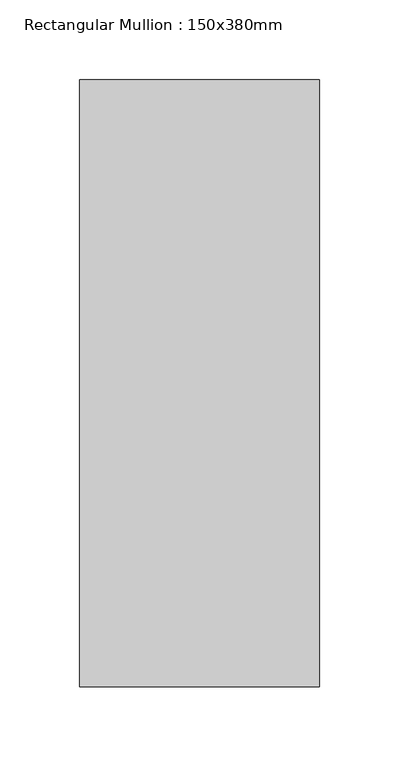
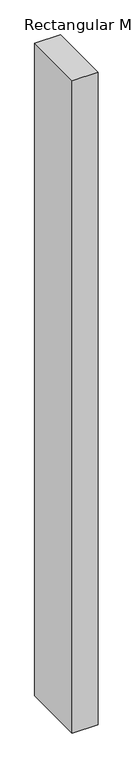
"""IFC4 building model written with IfcOpenShell, lengths in millimetres: member geometry, Rectangular Mullion : 150x380mm."""

import ifcopenshell
import ifcopenshell.guid

model = None  # the IFC model being written
_history = None  # IfcOwnerHistory: only IFC2X3 demands one
_inside = {}  # id of a spatial element -> (the spatial element, [elements in it])
_under = {}  # id of a project, library or spatial element -> (it, [spatial elements below it])
_declared = {}  # id of a project -> (the project, [libraries it declares])
_typed = {}  # id of a type object -> (the type object, [elements of that type])
_made_of = {}  # id of a material, layer set ... -> (it, [elements and type objects made of it])


def new_model(schema):
    """Start an empty IFC model of exactly this schema.

    Asked for "IFC4X3", IfcOpenShell would pick the latest addendum, in which some entities
    have other attributes; the version numbers below select the first issue.
    IFC2X3 requires an IfcOwnerHistory on every rooted entity: one is made here for all.
    """
    global model, _history
    if schema == "IFC4X3":
        model = ifcopenshell.file(schema_version=(4, 3, 0, 0))
    else:
        model = ifcopenshell.file(schema=schema)
    _inside.clear()
    _under.clear()
    _declared.clear()
    _typed.clear()
    _made_of.clear()
    _history = None
    if model.schema == "IFC2X3":
        org = make("IfcOrganization", Name="unknown")
        user = make(
            "IfcPersonAndOrganization",
            ThePerson=make("IfcPerson", FamilyName="unknown"),
            TheOrganization=org,
        )
        app = make(
            "IfcApplication",
            ApplicationDeveloper=org,
            Version="unknown",
            ApplicationFullName="unknown",
            ApplicationIdentifier="unknown",
        )
        _history = make(
            "IfcOwnerHistory",
            OwningUser=user,
            OwningApplication=app,
            ChangeAction="ADDED",
            CreationDate=0,
        )
    return model


def make(cls, **values):
    """One entity of the class cls with the attributes given. An attribute that is None is left unset."""
    return model.create_entity(
        cls, **{name: value for name, value in values.items() if value is not None}
    )


def rooted(cls, **values):
    """An entity with a GlobalId (a new one), such as an element, a storey or a relation."""
    return make(cls, GlobalId=ifcopenshell.guid.new(), OwnerHistory=_history, **values)


def si_unit(unit_type, name, prefix=None):
    """IfcSIUnit, for example si_unit("LENGTHUNIT", "METRE", prefix="MILLI")."""
    return make("IfcSIUnit", UnitType=unit_type, Prefix=prefix, Name=name)


def assignment(units):
    """IfcUnitAssignment: the units of a project."""
    return None if units is None else make("IfcUnitAssignment", Units=units)


def point(xyz):
    """IfcCartesianPoint."""
    return None if xyz is None else make("IfcCartesianPoint", Coordinates=xyz)


def direction(xyz):
    """IfcDirection."""
    return None if xyz is None else make("IfcDirection", DirectionRatios=xyz)


def frame(location, z_axis=None, x_axis=None):
    """IfcAxis2Placement3D, a coordinate frame: its origin and axes. An axis left out is left unset."""
    return make(
        "IfcAxis2Placement3D",
        Location=point(location),
        Axis=direction(z_axis),
        RefDirection=direction(x_axis),
    )


def origin():
    """The frame at (0, 0, 0) with its axes left unset."""
    return frame((0.0, 0.0, 0.0))


def place(relative_to, where):
    """IfcLocalPlacement: puts the frame where relative to a parent placement (None: the world)."""
    return make(
        "IfcLocalPlacement", PlacementRelTo=relative_to, RelativePlacement=where
    )


def context(
    kind, dimensions, precision=None, world=None, true_north=None, identifier=None
):
    """IfcGeometricRepresentationContext, for example the 3D "Model" context."""
    return make(
        "IfcGeometricRepresentationContext",
        ContextIdentifier=identifier,
        ContextType=kind,
        CoordinateSpaceDimension=dimensions,
        Precision=precision,
        WorldCoordinateSystem=world,
        TrueNorth=true_north,
    )


def project(units=None, contexts=None):
    """IfcProject with its units and contexts."""
    return rooted(
        "IfcProject",
        Name="project",
        RepresentationContexts=contexts,
        UnitsInContext=assignment(units),
    )


def spatial(cls, under=None, at=None, **own):
    """A site, building, storey or space (cls), placed at a placement, below another one or the project."""
    s = rooted(cls, ObjectPlacement=at, **own)
    if under is not None:
        _under.setdefault(under.id(), (under, []))[1].append(s)
    return s


def polyline(points):
    """IfcPolyline through the points."""
    return make("IfcPolyline", Points=[point(p) for p in points])


def outline(outer, holes=None, kind="AREA"):
    """IfcArbitraryClosedProfileDef: a profile drawn as a closed curve; with holes, ...WithVoids."""
    if holes is None:
        return make("IfcArbitraryClosedProfileDef", ProfileType=kind, OuterCurve=outer)
    return make(
        "IfcArbitraryProfileDefWithVoids",
        ProfileType=kind,
        OuterCurve=outer,
        InnerCurves=holes,
    )


def extrude(swept, where, along, depth):
    """IfcExtrudedAreaSolid: the profile swept, set in the frame where, extruded along a direction by depth."""
    return make(
        "IfcExtrudedAreaSolid",
        SweptArea=swept,
        Position=where,
        ExtrudedDirection=direction(along),
        Depth=depth,
    )


def shape(context_of_items, identifier, shape_type, items):
    """IfcShapeRepresentation: the items that make up one representation, for example the "Body"."""
    return make(
        "IfcShapeRepresentation",
        ContextOfItems=context_of_items,
        RepresentationIdentifier=identifier,
        RepresentationType=shape_type,
        Items=items,
    )


def source(mapping_origin, context_of_items, identifier, shape_type, items):
    """IfcRepresentationMap: a shape defined once, which mapped items show again and again."""
    return make(
        "IfcRepresentationMap",
        MappingOrigin=mapping_origin,
        MappedRepresentation=shape(context_of_items, identifier, shape_type, items),
    )


def transform(
    local_origin,
    x_axis=None,
    y_axis=None,
    z_axis=None,
    scale=None,
    scale2=None,
    scale3=None,
    uniform=True,
):
    """IfcCartesianTransformationOperator3D, or its non-uniform kind. x_axis, y_axis, z_axis: its Axis1, 2, 3."""
    if uniform:
        return make(
            "IfcCartesianTransformationOperator3D",
            Axis1=direction(x_axis),
            Axis2=direction(y_axis),
            LocalOrigin=point(local_origin),
            Scale=scale,
            Axis3=direction(z_axis),
        )
    return make(
        "IfcCartesianTransformationOperator3DnonUniform",
        Axis1=direction(x_axis),
        Axis2=direction(y_axis),
        LocalOrigin=point(local_origin),
        Scale=scale,
        Axis3=direction(z_axis),
        Scale2=scale2,
        Scale3=scale3,
    )


def mapped(mapping_source, mapping_target):
    """IfcMappedItem: shows the shape of a source again, moved by a transform."""
    return make(
        "IfcMappedItem", MappingSource=mapping_source, MappingTarget=mapping_target
    )


def made_of(thing, what):
    """Note that an element or type object is made of a material, layer set ...; save() writes the relation."""
    if what is not None:
        _made_of.setdefault(what.id(), (what, []))[1].append(thing)
    return thing


def element(
    cls,
    number,
    at=None,
    inside=None,
    cuts=None,
    type_object=None,
    material=None,
    context=None,
    identifier="Body",
    shape_type=None,
    held_by="IfcProductDefinitionShape",
    body=None,
    shapes=None,
    **own,
):
    """One element of the class cls, such as IfcWall. Its Tag is "e" and its number.

    at: its placement. inside: the storey or other place that contains it. cuts: it is an
    opening in that element (IfcRelVoidsElement). A single representation is given by context,
    identifier, shape_type and body (its items); several are given by shapes. held_by: the class
    of the entity that holds the representations. save() writes the other relations.
    """
    e = rooted(cls, Tag="e%d" % number, ObjectPlacement=at, **own)
    if body is not None:
        shapes = [shape(context, identifier, shape_type, body)]
    if shapes is not None:
        e.Representation = make(held_by, Representations=shapes)
    if inside is not None:
        _inside.setdefault(inside.id(), (inside, []))[1].append(e)
    if cuts is not None:
        rooted(
            "IfcRelVoidsElement", RelatingBuildingElement=cuts, RelatedOpeningElement=e
        )
    if type_object is not None:
        _typed.setdefault(type_object.id(), (type_object, []))[1].append(e)
    return made_of(e, material)


def aggregate(whole, parts):
    """IfcRelAggregates: a whole, such as a stair, and the parts it consists of."""
    return rooted("IfcRelAggregates", RelatingObject=whole, RelatedObjects=parts)


def save(model, path):
    """Write the relations noted so far, then the file.

    IfcRelAggregates (storeys below a building ...), IfcRelContainedInSpatialStructure (elements
    in a storey), IfcRelDefinesByType, IfcRelAssociatesMaterial and IfcRelDeclares: one each for
    every whole, place, type object, material and project.
    """
    for whole, parts in _under.values():
        aggregate(whole, parts)
    for where, things in _inside.values():
        rooted(
            "IfcRelContainedInSpatialStructure",
            RelatedElements=things,
            RelatingStructure=where,
        )
    for kind, things in _typed.values():
        rooted("IfcRelDefinesByType", RelatedObjects=things, RelatingType=kind)
    for what, things in _made_of.values():
        rooted("IfcRelAssociatesMaterial", RelatedObjects=things, RelatingMaterial=what)
    for by, libraries in _declared.values():
        rooted("IfcRelDeclares", RelatingContext=by, RelatedDefinitions=libraries)
    model.write(path)


def rectangular_mullion_150x380mm_548b37fc(model_context):
    return source(origin(), model_context, "Body", "SweptSolid", [
        extrude(outline(polyline([(75.0, 190.0), (75.0, -190.0), (-75.0, -190.0), (-75.0, 190.0), (75.0, 190.0)])), frame((0.0, 0.0, -4030.0), z_axis=(0.0, 0.0, 1.0), x_axis=(1.0, 0.0, 0.0)), (0.0, 0.0, 1.0), 4030.0),
    ])


if __name__ == "__main__":
    model = new_model("IFC4")
    model_context = context("Model", 3, world=origin())
    ifc_project = project(units=[si_unit("LENGTHUNIT", "METRE", prefix="MILLI")], contexts=[model_context])
    site = spatial("IfcSite", under=ifc_project)
    building = spatial("IfcBuilding", under=site)
    placement = place(None, origin())
    rectangular_mullion_150x380mm_shape = rectangular_mullion_150x380mm_548b37fc(model_context)
    element("IfcMember", 1, ObjectType="Rectangular Mullion : 150x380mm", at=placement, inside=building, context=model_context, shape_type="MappedRepresentation", body=[
        mapped(rectangular_mullion_150x380mm_shape, transform((0.0, 0.0, 0.0), x_axis=(1.0, 0.0, 0.0), y_axis=(0.0, 1.0, 0.0), z_axis=(0.0, 0.0, 1.0))),
    ])
    save(model, "model.ifc")
